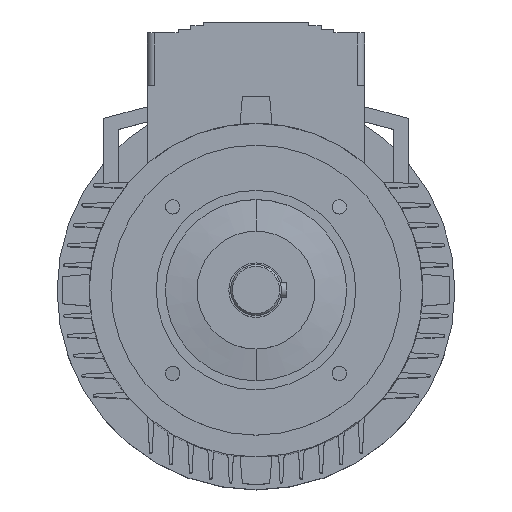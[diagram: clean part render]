
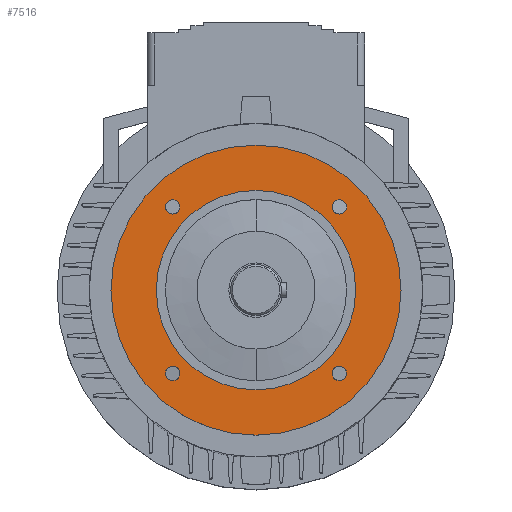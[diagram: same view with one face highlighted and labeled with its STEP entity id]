
A CAD part, top view. The second image highlights one B-rep face of the part: STEP entity #7516.
In plain terms, the highlighted planar face has unit normal (0, 0, 1).
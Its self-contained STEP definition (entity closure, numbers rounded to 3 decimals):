
#2293=CARTESIAN_POINT('',(-45.962,45.962,38.));
#2294=DIRECTION('',(0.,0.,-1.));
#2295=DIRECTION('',(-1.,0.,0.));
#2296=AXIS2_PLACEMENT_3D('',#2293,#2294,#2295);
#2298=CARTESIAN_POINT('',(-45.962,45.962,38.));
#2299=DIRECTION('',(0.,0.,-1.));
#2300=DIRECTION('',(1.,0.,0.));
#2301=AXIS2_PLACEMENT_3D('',#2298,#2299,#2300);
#2303=CARTESIAN_POINT('',(-45.962,-45.962,38.));
#2304=DIRECTION('',(0.,0.,-1.));
#2305=DIRECTION('',(-1.,0.,0.));
#2306=AXIS2_PLACEMENT_3D('',#2303,#2304,#2305);
#2308=CARTESIAN_POINT('',(-45.962,-45.962,38.));
#2309=DIRECTION('',(0.,0.,-1.));
#2310=DIRECTION('',(1.,0.,0.));
#2311=AXIS2_PLACEMENT_3D('',#2308,#2309,#2310);
#2313=CARTESIAN_POINT('',(45.962,-45.962,38.));
#2314=DIRECTION('',(0.,0.,-1.));
#2315=DIRECTION('',(-1.,0.,0.));
#2316=AXIS2_PLACEMENT_3D('',#2313,#2314,#2315);
#2318=CARTESIAN_POINT('',(45.962,-45.962,38.));
#2319=DIRECTION('',(0.,0.,-1.));
#2320=DIRECTION('',(1.,0.,0.));
#2321=AXIS2_PLACEMENT_3D('',#2318,#2319,#2320);
#2323=CARTESIAN_POINT('',(0.,0.,38.));
#2324=DIRECTION('',(0.,0.,1.));
#2325=DIRECTION('',(0.,1.,0.));
#2326=AXIS2_PLACEMENT_3D('',#2323,#2324,#2325);
#2328=CARTESIAN_POINT('',(0.,0.,38.));
#2329=DIRECTION('',(0.,0.,-1.));
#2330=DIRECTION('',(0.,1.,0.));
#2331=AXIS2_PLACEMENT_3D('',#2328,#2329,#2330);
#2333=CARTESIAN_POINT('',(45.962,45.962,38.));
#2334=DIRECTION('',(0.,0.,-1.));
#2335=DIRECTION('',(-1.,0.,0.));
#2336=AXIS2_PLACEMENT_3D('',#2333,#2334,#2335);
#2338=CARTESIAN_POINT('',(45.962,45.962,38.));
#2339=DIRECTION('',(0.,0.,-1.));
#2340=DIRECTION('',(1.,0.,0.));
#2341=AXIS2_PLACEMENT_3D('',#2338,#2339,#2340);
#2715=CARTESIAN_POINT('',(0.,0.,38.));
#2716=DIRECTION('',(0.,0.,1.));
#2717=DIRECTION('',(0.,1.,0.));
#2718=AXIS2_PLACEMENT_3D('',#2715,#2716,#2717);
#2720=CARTESIAN_POINT('',(0.,0.,38.));
#2721=DIRECTION('',(0.,0.,-1.));
#2722=DIRECTION('',(0.,1.,0.));
#2723=AXIS2_PLACEMENT_3D('',#2720,#2721,#2722);
#3443=CARTESIAN_POINT('',(0.,80.,38.));
#3445=VERTEX_POINT('',#3443);
#3446=CARTESIAN_POINT('',(0.,55.,38.));
#3448=VERTEX_POINT('',#3446);
#3451=CARTESIAN_POINT('',(0.,-80.,38.));
#3453=VERTEX_POINT('',#3451);
#3454=CARTESIAN_POINT('',(0.,-55.,38.));
#3456=VERTEX_POINT('',#3454);
#3466=CARTESIAN_POINT('',(41.962,45.962,38.));
#3467=CARTESIAN_POINT('',(49.962,45.962,38.));
#3468=VERTEX_POINT('',#3466);
#3469=VERTEX_POINT('',#3467);
#3470=CARTESIAN_POINT('',(41.962,-45.962,38.));
#3471=CARTESIAN_POINT('',(49.962,-45.962,38.));
#3472=VERTEX_POINT('',#3470);
#3473=VERTEX_POINT('',#3471);
#3474=CARTESIAN_POINT('',(-49.962,-45.962,38.));
#3475=CARTESIAN_POINT('',(-41.962,-45.962,38.));
#3476=VERTEX_POINT('',#3474);
#3477=VERTEX_POINT('',#3475);
#3478=CARTESIAN_POINT('',(-49.962,45.962,38.));
#3479=CARTESIAN_POINT('',(-41.962,45.962,38.));
#3480=VERTEX_POINT('',#3478);
#3481=VERTEX_POINT('',#3479);
#7477=CARTESIAN_POINT('',(0.,0.,38.));
#7478=DIRECTION('',(0.,0.,-1.));
#7479=DIRECTION('',(0.,-1.,0.));
#7480=AXIS2_PLACEMENT_3D('',#7477,#7478,#7479);
#7481=PLANE('',#7480);
#7482=ORIENTED_EDGE('',*,*,#7470,.F.);
#7483=ORIENTED_EDGE('',*,*,#7459,.T.);
#7484=EDGE_LOOP('',(#7482,#7483));
#7485=FACE_OUTER_BOUND('',#7484,.F.);
#7487=ORIENTED_EDGE('',*,*,#7486,.F.);
#7489=ORIENTED_EDGE('',*,*,#7488,.F.);
#7490=EDGE_LOOP('',(#7487,#7489));
#7491=FACE_BOUND('',#7490,.F.);
#7493=ORIENTED_EDGE('',*,*,#7492,.F.);
#7495=ORIENTED_EDGE('',*,*,#7494,.F.);
#7496=EDGE_LOOP('',(#7493,#7495));
#7497=FACE_BOUND('',#7496,.F.);
#7499=ORIENTED_EDGE('',*,*,#7498,.F.);
#7501=ORIENTED_EDGE('',*,*,#7500,.F.);
#7502=EDGE_LOOP('',(#7499,#7501));
#7503=FACE_BOUND('',#7502,.F.);
#7505=ORIENTED_EDGE('',*,*,#7504,.F.);
#7507=ORIENTED_EDGE('',*,*,#7506,.T.);
#7508=EDGE_LOOP('',(#7505,#7507));
#7509=FACE_BOUND('',#7508,.F.);
#7511=ORIENTED_EDGE('',*,*,#7510,.F.);
#7513=ORIENTED_EDGE('',*,*,#7512,.F.);
#7514=EDGE_LOOP('',(#7511,#7513));
#7515=FACE_BOUND('',#7514,.F.);
#7516=ADVANCED_FACE('',(#7485,#7491,#7497,#7503,#7509,#7515),#7481,.F.);
#2297=CIRCLE('',#2296,4.);
#2302=CIRCLE('',#2301,4.);
#2307=CIRCLE('',#2306,4.);
#2312=CIRCLE('',#2311,4.);
#2317=CIRCLE('',#2316,4.);
#2322=CIRCLE('',#2321,4.);
#2327=CIRCLE('',#2326,80.);
#2332=CIRCLE('',#2331,80.);
#2337=CIRCLE('',#2336,4.);
#2342=CIRCLE('',#2341,4.);
#2719=CIRCLE('',#2718,55.);
#2724=CIRCLE('',#2723,55.);
#7459=EDGE_CURVE('',#3445,#3453,#2332,.T.);
#7470=EDGE_CURVE('',#3445,#3453,#2327,.T.);
#7486=EDGE_CURVE('',#3480,#3481,#2297,.T.);
#7488=EDGE_CURVE('',#3481,#3480,#2302,.T.);
#7492=EDGE_CURVE('',#3476,#3477,#2307,.T.);
#7494=EDGE_CURVE('',#3477,#3476,#2312,.T.);
#7498=EDGE_CURVE('',#3472,#3473,#2317,.T.);
#7500=EDGE_CURVE('',#3473,#3472,#2322,.T.);
#7504=EDGE_CURVE('',#3448,#3456,#2724,.T.);
#7506=EDGE_CURVE('',#3448,#3456,#2719,.T.);
#7510=EDGE_CURVE('',#3468,#3469,#2337,.T.);
#7512=EDGE_CURVE('',#3469,#3468,#2342,.T.);
